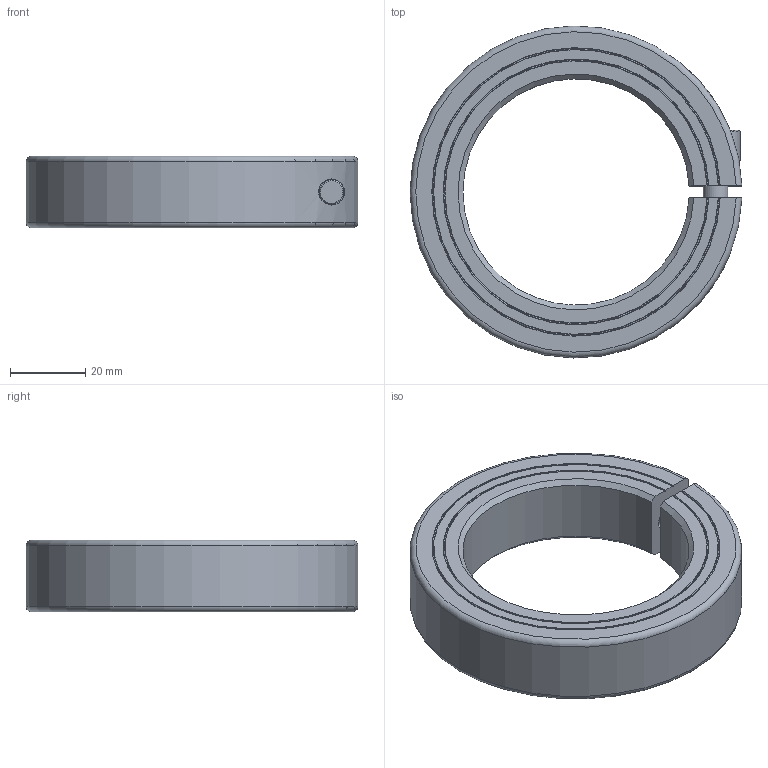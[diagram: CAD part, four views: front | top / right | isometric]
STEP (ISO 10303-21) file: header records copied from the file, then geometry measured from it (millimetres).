
FILE_DESCRIPTION((''),'2;1');
FILE_NAME('MCL-60-F','2016-09-08T',('SYSTEM'),(''),'PRO/ENGINEER BY PARAMETRIC TECHNOLOGY CORPORATION, 2015110','PRO/ENGINEER BY PARAMETRIC TECHNOLOGY CORPORATION, 2015110','');
FILE_SCHEMA(('AUTOMOTIVE_DESIGN { 1 0 10303 214 1 1 1 1 }'));
Length unit declared in the file: inch
Products named in the file (1): MCL-60-F
Bounding box: 87.97 x 87.99 x 19 mm (x, y, z)
Volume: 58625.3 mm3; surface area: 17046.7 mm2
Topology: 1 solids, 1 shells, 43 faces, 111 edges, 74 vertices
Faces by surface type: plane 18, cylinder 11, cone 10, torus 4
Entity records: 1803 total; most frequent: CARTESIAN_POINT 382, ORIENTED_EDGE 222, DIRECTION 217, EDGE_CURVE 111, AXIS2_PLACEMENT_3D 86, VERTEX_POINT 74, EDGE_LOOP 49, VECTOR 45
